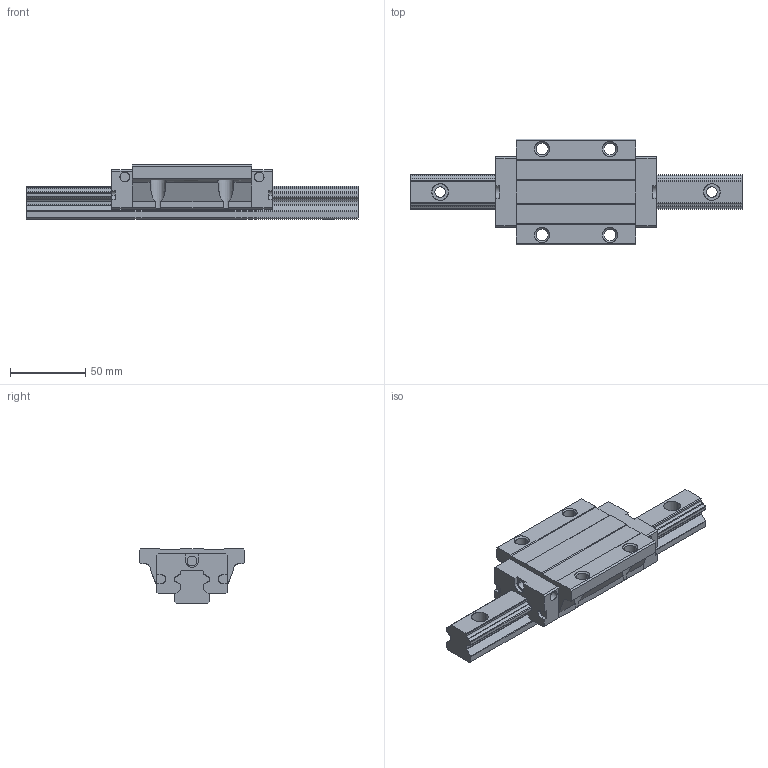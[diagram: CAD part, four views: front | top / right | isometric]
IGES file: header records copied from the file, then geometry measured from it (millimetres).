
Start section: START RECORD GO HERE.
Global section: file name: SBG25_FLL.igs; native system: IBM CATIA IGES - CATIA Version 5 Release 16 ; preprocessor: CATIA Version 5 Release 16 ; author: mycom; organization: RD03; date: 20070317.133351; units: millimetre
Bounding box: 220 x 70 x 36 mm (x, y, z)
Surface area: 54212 mm2 (no closed solid volume)
Topology: 0 solids, 0 shells, 280 faces, 1568 edges, 1568 vertices
Faces by surface type: revolution 146, plane 134
